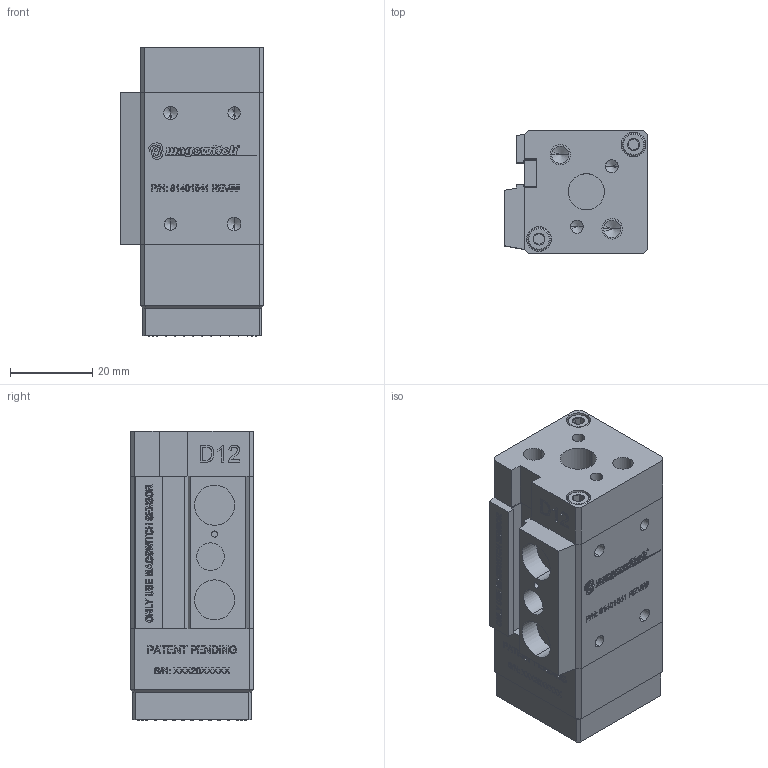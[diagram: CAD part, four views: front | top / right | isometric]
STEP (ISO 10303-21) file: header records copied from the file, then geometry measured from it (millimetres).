
FILE_DESCRIPTION (( 'STEP AP203' ), '1' );
FILE_NAME ('D12 with friction pad without sensor_s.STEP', '2023-11-07T22:10:33', ( '' ), ( '' ), 'SwSTEP 2.0', 'SolidWorks 2022', '' );
FILE_SCHEMA (( 'CONFIG_CONTROL_DESIGN' ));
Products named in the file (1): D12 with friction pad without sensor_s
Bounding box: 35 x 30 x 70.4 mm (x, y, z)
Volume: 61710.9 mm3; surface area: 23574 mm2
Topology: 15 solids, 23 shells, 2036 faces, 5331 edges, 3467 vertices
Faces by surface type: plane 1110, bspline 369, cylinder 319, cone 126, torus 104, sphere 8
Entity records: 82839 total; most frequent: CARTESIAN_POINT 35641, ORIENTED_EDGE 10498, DIRECTION 8379, EDGE_CURVE 5249, VERTEX_POINT 3463, LINE 3459, VECTOR 3459, AXIS2_PLACEMENT_3D 2460
